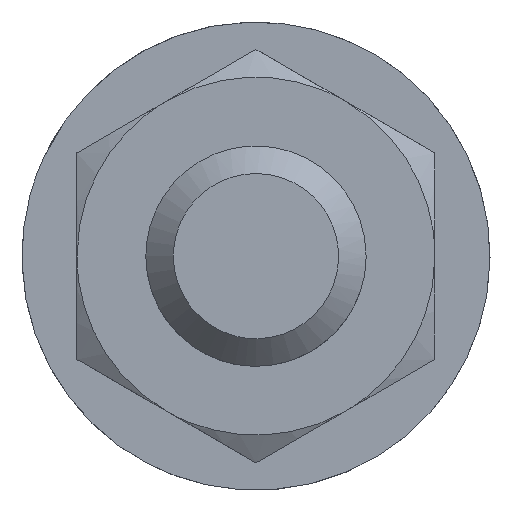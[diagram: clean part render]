
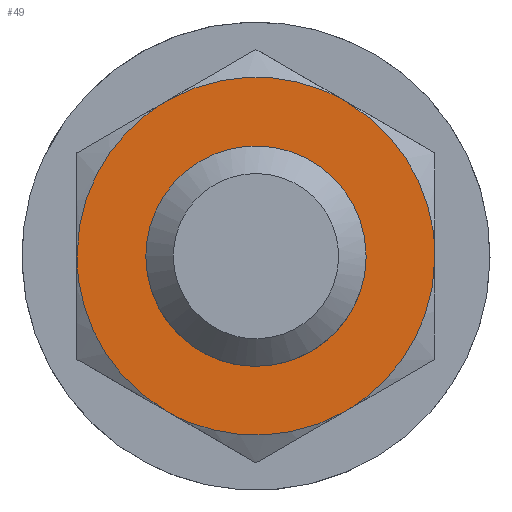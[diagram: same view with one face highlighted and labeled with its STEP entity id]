
A CAD part, left-side view. The second image highlights one B-rep face of the part: STEP entity #49.
In plain terms, the highlighted planar face has unit normal (-1, 0, 0).
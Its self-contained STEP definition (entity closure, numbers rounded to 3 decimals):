
#40=FACE_BOUND('',#138,.T.);
#49=ADVANCED_FACE('',(#92,#40),#658,.T.);
#92=FACE_OUTER_BOUND('',#137,.T.);
#137=EDGE_LOOP('',(#202,#203,#204,#205,#206,#207));
#138=EDGE_LOOP('',(#208,#209));
#202=ORIENTED_EDGE('',*,*,#403,.F.);
#203=ORIENTED_EDGE('',*,*,#405,.F.);
#204=ORIENTED_EDGE('',*,*,#406,.F.);
#205=ORIENTED_EDGE('',*,*,#404,.F.);
#206=ORIENTED_EDGE('',*,*,#402,.F.);
#207=ORIENTED_EDGE('',*,*,#401,.F.);
#208=ORIENTED_EDGE('',*,*,#391,.F.);
#209=ORIENTED_EDGE('',*,*,#389,.F.);
#389=EDGE_CURVE('',#604,#594,#515,.T.);
#391=EDGE_CURVE('',#594,#604,#516,.T.);
#401=EDGE_CURVE('',#598,#599,#524,.T.);
#402=EDGE_CURVE('',#599,#603,#525,.T.);
#403=EDGE_CURVE('',#600,#598,#526,.T.);
#404=EDGE_CURVE('',#603,#602,#527,.T.);
#405=EDGE_CURVE('',#601,#600,#528,.T.);
#406=EDGE_CURVE('',#602,#601,#529,.T.);
#515=(
BOUNDED_CURVE()
B_SPLINE_CURVE(2,(#1161,#1162,#1163,#1164,#1165),.UNSPECIFIED.,.F.,.F.)
B_SPLINE_CURVE_WITH_KNOTS((3,2,3),(12.567,18.85,25.133),
 .UNSPECIFIED.)
CURVE()
GEOMETRIC_REPRESENTATION_ITEM()
RATIONAL_B_SPLINE_CURVE((1.,0.707,1.,0.707,1.))
REPRESENTATION_ITEM('')
);
#516=(
BOUNDED_CURVE()
B_SPLINE_CURVE(2,(#1168,#1169,#1170,#1171,#1172),.UNSPECIFIED.,.F.,.F.)
B_SPLINE_CURVE_WITH_KNOTS((3,2,3),(0.,6.283,12.567),
 .UNSPECIFIED.)
CURVE()
GEOMETRIC_REPRESENTATION_ITEM()
RATIONAL_B_SPLINE_CURVE((1.,0.707,1.,0.707,1.))
REPRESENTATION_ITEM('')
);
#524=(
BOUNDED_CURVE()
B_SPLINE_CURVE(2,(#1210,#1211,#1212),.UNSPECIFIED.,.F.,.F.)
B_SPLINE_CURVE_WITH_KNOTS((3,3),(0.,6.807),.UNSPECIFIED.)
CURVE()
GEOMETRIC_REPRESENTATION_ITEM()
RATIONAL_B_SPLINE_CURVE((1.,0.866,1.))
REPRESENTATION_ITEM('')
);
#525=(
BOUNDED_CURVE()
B_SPLINE_CURVE(2,(#1213,#1214,#1215),.UNSPECIFIED.,.F.,.F.)
B_SPLINE_CURVE_WITH_KNOTS((3,3),(0.,6.807),.UNSPECIFIED.)
CURVE()
GEOMETRIC_REPRESENTATION_ITEM()
RATIONAL_B_SPLINE_CURVE((1.,0.866,1.))
REPRESENTATION_ITEM('')
);
#526=(
BOUNDED_CURVE()
B_SPLINE_CURVE(2,(#1216,#1217,#1218),.UNSPECIFIED.,.F.,.F.)
B_SPLINE_CURVE_WITH_KNOTS((3,3),(0.,6.807),.UNSPECIFIED.)
CURVE()
GEOMETRIC_REPRESENTATION_ITEM()
RATIONAL_B_SPLINE_CURVE((1.,0.866,1.))
REPRESENTATION_ITEM('')
);
#527=(
BOUNDED_CURVE()
B_SPLINE_CURVE(2,(#1219,#1220,#1221),.UNSPECIFIED.,.F.,.F.)
B_SPLINE_CURVE_WITH_KNOTS((3,3),(0.,6.807),.UNSPECIFIED.)
CURVE()
GEOMETRIC_REPRESENTATION_ITEM()
RATIONAL_B_SPLINE_CURVE((1.,0.866,1.))
REPRESENTATION_ITEM('')
);
#528=(
BOUNDED_CURVE()
B_SPLINE_CURVE(2,(#1222,#1223,#1224),.UNSPECIFIED.,.F.,.F.)
B_SPLINE_CURVE_WITH_KNOTS((3,3),(0.,6.807),.UNSPECIFIED.)
CURVE()
GEOMETRIC_REPRESENTATION_ITEM()
RATIONAL_B_SPLINE_CURVE((1.,0.866,1.))
REPRESENTATION_ITEM('')
);
#529=(
BOUNDED_CURVE()
B_SPLINE_CURVE(2,(#1225,#1226,#1227),.UNSPECIFIED.,.F.,.F.)
B_SPLINE_CURVE_WITH_KNOTS((3,3),(0.,6.807),.UNSPECIFIED.)
CURVE()
GEOMETRIC_REPRESENTATION_ITEM()
RATIONAL_B_SPLINE_CURVE((1.,0.866,1.))
REPRESENTATION_ITEM('')
);
#594=VERTEX_POINT('',#1129);
#598=VERTEX_POINT('',#1133);
#599=VERTEX_POINT('',#1134);
#600=VERTEX_POINT('',#1135);
#601=VERTEX_POINT('',#1136);
#602=VERTEX_POINT('',#1137);
#603=VERTEX_POINT('',#1138);
#604=VERTEX_POINT('',#1139);
#658=PLANE('',#772);
#772=AXIS2_PLACEMENT_3D('',#886,#798,$);
#798=DIRECTION('',(-1.,0.,0.));
#886=CARTESIAN_POINT('',(14.4,-7.92,-9.127));
#1129=CARTESIAN_POINT('',(14.4,4.,0.));
#1133=CARTESIAN_POINT('',(14.4,-3.25,-5.629));
#1134=CARTESIAN_POINT('',(14.4,3.25,-5.629));
#1135=CARTESIAN_POINT('',(14.4,-6.5,0.));
#1136=CARTESIAN_POINT('',(14.4,-3.25,5.629));
#1137=CARTESIAN_POINT('',(14.4,3.25,5.629));
#1138=CARTESIAN_POINT('',(14.4,6.5,0.));
#1139=CARTESIAN_POINT('',(14.4,-4.,0.));
#1161=CARTESIAN_POINT('',(14.4,-4.,0.));
#1162=CARTESIAN_POINT('',(14.4,-4.,4.));
#1163=CARTESIAN_POINT('',(14.4,0.,4.));
#1164=CARTESIAN_POINT('',(14.4,4.,4.));
#1165=CARTESIAN_POINT('',(14.4,4.,0.));
#1168=CARTESIAN_POINT('',(14.4,4.,0.));
#1169=CARTESIAN_POINT('',(14.4,4.,-4.));
#1170=CARTESIAN_POINT('',(14.4,0.,-4.));
#1171=CARTESIAN_POINT('',(14.4,-4.,-4.));
#1172=CARTESIAN_POINT('',(14.4,-4.,0.));
#1210=CARTESIAN_POINT('',(14.4,-3.25,-5.629));
#1211=CARTESIAN_POINT('',(14.4,0.,-7.506));
#1212=CARTESIAN_POINT('',(14.4,3.25,-5.629));
#1213=CARTESIAN_POINT('',(14.4,3.25,-5.629));
#1214=CARTESIAN_POINT('',(14.4,6.5,-3.753));
#1215=CARTESIAN_POINT('',(14.4,6.5,0.));
#1216=CARTESIAN_POINT('',(14.4,-6.5,0.));
#1217=CARTESIAN_POINT('',(14.4,-6.5,-3.753));
#1218=CARTESIAN_POINT('',(14.4,-3.25,-5.629));
#1219=CARTESIAN_POINT('',(14.4,6.5,0.));
#1220=CARTESIAN_POINT('',(14.4,6.5,3.753));
#1221=CARTESIAN_POINT('',(14.4,3.25,5.629));
#1222=CARTESIAN_POINT('',(14.4,-3.25,5.629));
#1223=CARTESIAN_POINT('',(14.4,-6.5,3.753));
#1224=CARTESIAN_POINT('',(14.4,-6.5,0.));
#1225=CARTESIAN_POINT('',(14.4,3.25,5.629));
#1226=CARTESIAN_POINT('',(14.4,0.,7.506));
#1227=CARTESIAN_POINT('',(14.4,-3.25,5.629));
